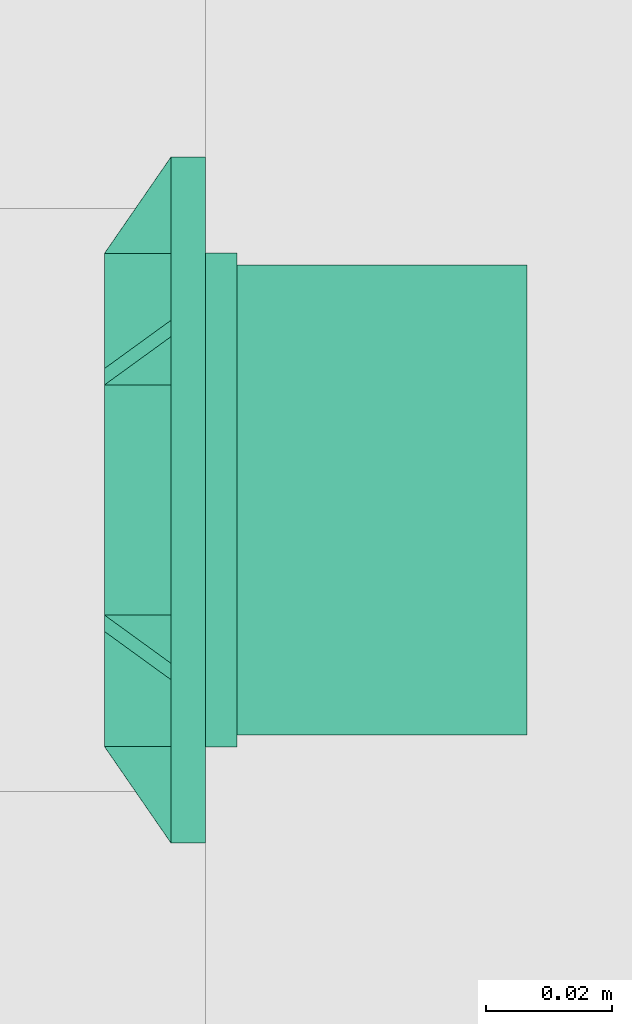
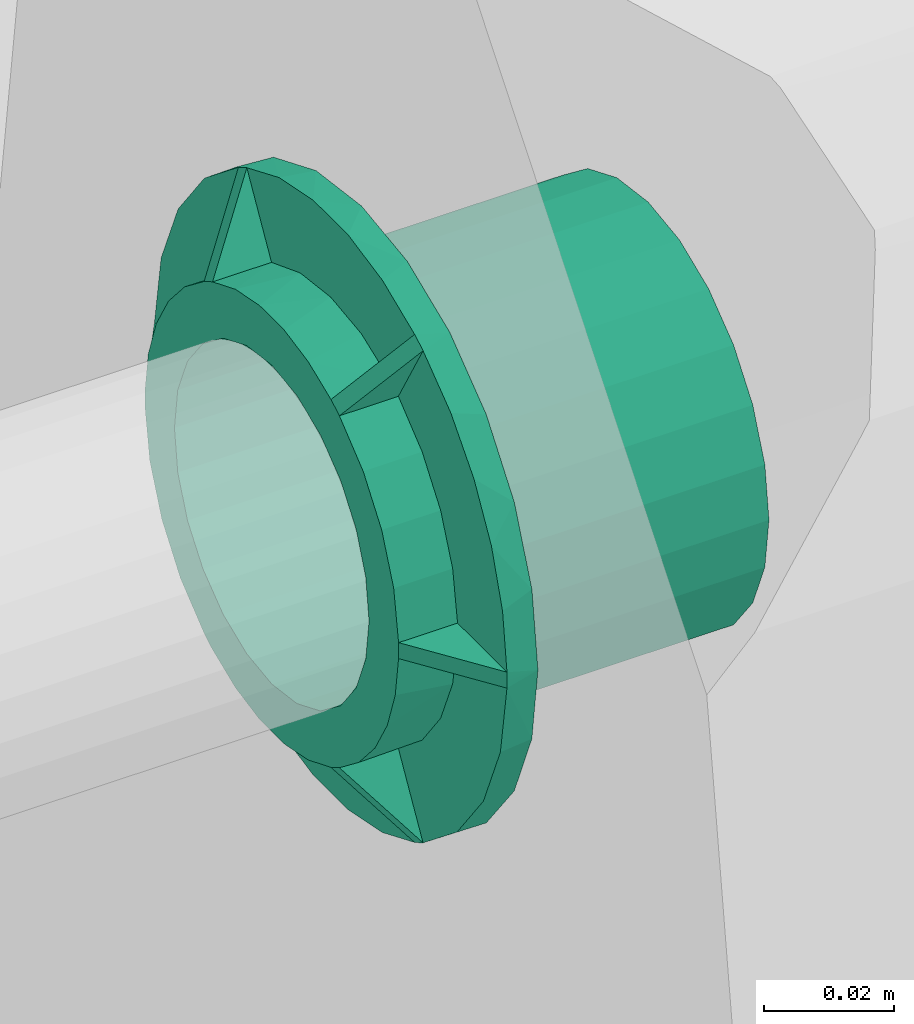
# One storey, part 65 of 166: 1 flow fitting.
"""IFC2X3 building model written with IfcOpenShell, lengths in metres."""

import ifcopenshell
import ifcopenshell.guid

model = None  # the IFC model being written
_history = None  # IfcOwnerHistory: only IFC2X3 demands one
_inside = {}  # id of a spatial element -> (the spatial element, [elements in it])
_under = {}  # id of a project, library or spatial element -> (it, [spatial elements below it])
_declared = {}  # id of a project -> (the project, [libraries it declares])
_typed = {}  # id of a type object -> (the type object, [elements of that type])
_made_of = {}  # id of a material, layer set ... -> (it, [elements and type objects made of it])


def new_model(schema):
    """Start an empty IFC model of exactly this schema.

    Asked for "IFC4X3", IfcOpenShell would pick the latest addendum, in which some entities
    have other attributes; the version numbers below select the first issue.
    IFC2X3 requires an IfcOwnerHistory on every rooted entity: one is made here for all.
    """
    global model, _history
    if schema == "IFC4X3":
        model = ifcopenshell.file(schema_version=(4, 3, 0, 0))
    else:
        model = ifcopenshell.file(schema=schema)
    _inside.clear()
    _under.clear()
    _declared.clear()
    _typed.clear()
    _made_of.clear()
    _history = None
    if model.schema == "IFC2X3":
        org = make("IfcOrganization", Name="unknown")
        user = make(
            "IfcPersonAndOrganization",
            ThePerson=make("IfcPerson", FamilyName="unknown"),
            TheOrganization=org,
        )
        app = make(
            "IfcApplication",
            ApplicationDeveloper=org,
            Version="unknown",
            ApplicationFullName="unknown",
            ApplicationIdentifier="unknown",
        )
        _history = make(
            "IfcOwnerHistory",
            OwningUser=user,
            OwningApplication=app,
            ChangeAction="ADDED",
            CreationDate=0,
        )
    return model


def make(cls, **values):
    """One entity of the class cls with the attributes given. An attribute that is None is left unset."""
    return model.create_entity(
        cls, **{name: value for name, value in values.items() if value is not None}
    )


def entity(cls, *values):
    """Any entity or typed value of the class cls, its attributes in the order of the schema. None: left unset."""
    e = model.create_entity(cls)
    for i, value in enumerate(values):
        if value is not None:
            e[i] = value
    return e


def rooted(cls, **values):
    """An entity with a GlobalId (a new one), such as an element, a storey or a relation."""
    return make(cls, GlobalId=ifcopenshell.guid.new(), OwnerHistory=_history, **values)


def si_unit(unit_type, name, prefix=None):
    """IfcSIUnit, for example si_unit("LENGTHUNIT", "METRE", prefix="MILLI")."""
    return make("IfcSIUnit", UnitType=unit_type, Prefix=prefix, Name=name)


def converted_unit(unit_type, name, factor, base, dimensions=None, offset=None):
    """IfcConversionBasedUnit, such as the inch: factor (a typed value) times the base unit."""
    return make(
        "IfcConversionBasedUnit"
        if offset is None
        else "IfcConversionBasedUnitWithOffset",
        ConversionOffset=offset,
        Dimensions=None
        if dimensions is None
        else entity("IfcDimensionalExponents", *dimensions),
        UnitType=unit_type,
        Name=name,
        ConversionFactor=make(
            "IfcMeasureWithUnit", ValueComponent=factor, UnitComponent=base
        ),
    )


def assignment(units):
    """IfcUnitAssignment: the units of a project."""
    return None if units is None else make("IfcUnitAssignment", Units=units)


def point(xyz):
    """IfcCartesianPoint."""
    return None if xyz is None else make("IfcCartesianPoint", Coordinates=xyz)


def direction(xyz):
    """IfcDirection."""
    return None if xyz is None else make("IfcDirection", DirectionRatios=xyz)


def frame(location, z_axis=None, x_axis=None):
    """IfcAxis2Placement3D, a coordinate frame: its origin and axes. An axis left out is left unset."""
    return make(
        "IfcAxis2Placement3D",
        Location=point(location),
        Axis=direction(z_axis),
        RefDirection=direction(x_axis),
    )


def origin():
    """The frame at (0, 0, 0) with its axes left unset."""
    return frame((0.0, 0.0, 0.0))


def place(relative_to, where):
    """IfcLocalPlacement: puts the frame where relative to a parent placement (None: the world)."""
    return make(
        "IfcLocalPlacement", PlacementRelTo=relative_to, RelativePlacement=where
    )


def context(
    kind, dimensions, precision=None, world=None, true_north=None, identifier=None
):
    """IfcGeometricRepresentationContext, for example the 3D "Model" context."""
    return make(
        "IfcGeometricRepresentationContext",
        ContextIdentifier=identifier,
        ContextType=kind,
        CoordinateSpaceDimension=dimensions,
        Precision=precision,
        WorldCoordinateSystem=world,
        TrueNorth=true_north,
    )


def subcontext(parent, identifier, kind, view, scale=None):
    """IfcGeometricRepresentationSubContext, for example "Body" below "Model"."""
    return make(
        "IfcGeometricRepresentationSubContext",
        ContextIdentifier=identifier,
        ContextType=kind,
        ParentContext=parent,
        TargetScale=scale,
        TargetView=view,
    )


def project(units=None, contexts=None):
    """IfcProject with its units and contexts."""
    return rooted(
        "IfcProject",
        Name="project",
        RepresentationContexts=contexts,
        UnitsInContext=assignment(units),
    )


def spatial(cls, under=None, at=None, **own):
    """A site, building, storey or space (cls), placed at a placement, below another one or the project."""
    s = rooted(cls, ObjectPlacement=at, **own)
    if under is not None:
        _under.setdefault(under.id(), (under, []))[1].append(s)
    return s


def faces_of(points, faces, orient=None, outer=None):
    """IfcFace entities. A face is a list of loops; a loop is a list of indices into points, from 0.

    orient and outer hold one flag for each loop. By default every Orientation is true, the
    first loop of a face is its IfcFaceOuterBound and the others are IfcFaceBound.
    """
    made = []
    for i, loops in enumerate(faces):
        bounds = []
        for j, loop in enumerate(loops):
            is_outer = j == 0 if outer is None else outer[i][j]
            bounds.append(
                make(
                    "IfcFaceOuterBound" if is_outer else "IfcFaceBound",
                    Bound=make("IfcPolyLoop", Polygon=[points[k] for k in loop]),
                    Orientation=True if orient is None else orient[i][j],
                )
            )
        made.append(make("IfcFace", Bounds=bounds))
    return made


def faceted_brep(points, faces, orient=None, outer=None, voids=None):
    """IfcFacetedBrep: a solid bounded by flat faces; with voids (closed shells), ...WithVoids."""
    shared = [point(p) for p in points]
    hull = make("IfcClosedShell", CfsFaces=faces_of(shared, faces, orient, outer))
    if voids is None:
        return make("IfcFacetedBrep", Outer=hull)
    return make(
        "IfcFacetedBrepWithVoids",
        Outer=hull,
        Voids=[
            make(cls, CfsFaces=faces_of(shared, fs, o, b)) for cls, fs, o, b in voids
        ],
    )


def shape(context_of_items, identifier, shape_type, items):
    """IfcShapeRepresentation: the items that make up one representation, for example the "Body"."""
    return make(
        "IfcShapeRepresentation",
        ContextOfItems=context_of_items,
        RepresentationIdentifier=identifier,
        RepresentationType=shape_type,
        Items=items,
    )


def source(mapping_origin, context_of_items, identifier, shape_type, items):
    """IfcRepresentationMap: a shape defined once, which mapped items show again and again."""
    return make(
        "IfcRepresentationMap",
        MappingOrigin=mapping_origin,
        MappedRepresentation=shape(context_of_items, identifier, shape_type, items),
    )


def transform(
    local_origin,
    x_axis=None,
    y_axis=None,
    z_axis=None,
    scale=None,
    scale2=None,
    scale3=None,
    uniform=True,
):
    """IfcCartesianTransformationOperator3D, or its non-uniform kind. x_axis, y_axis, z_axis: its Axis1, 2, 3."""
    if uniform:
        return make(
            "IfcCartesianTransformationOperator3D",
            Axis1=direction(x_axis),
            Axis2=direction(y_axis),
            LocalOrigin=point(local_origin),
            Scale=scale,
            Axis3=direction(z_axis),
        )
    return make(
        "IfcCartesianTransformationOperator3DnonUniform",
        Axis1=direction(x_axis),
        Axis2=direction(y_axis),
        LocalOrigin=point(local_origin),
        Scale=scale,
        Axis3=direction(z_axis),
        Scale2=scale2,
        Scale3=scale3,
    )


def mapped(mapping_source, mapping_target):
    """IfcMappedItem: shows the shape of a source again, moved by a transform."""
    return make(
        "IfcMappedItem", MappingSource=mapping_source, MappingTarget=mapping_target
    )


def material(Name=None, Category=None):
    """IfcMaterial."""
    return make("IfcMaterial", Name=Name, Category=Category)


def made_of(thing, what):
    """Note that an element or type object is made of a material, layer set ...; save() writes the relation."""
    if what is not None:
        _made_of.setdefault(what.id(), (what, []))[1].append(thing)
    return thing


def type_object(cls, material=None, **own):
    """A type object (cls), such as IfcWallType, which elements share."""
    return made_of(rooted(cls, **own), material)


def type_shapes(of_type, sources):
    """Give a type object the sources (RepresentationMaps) that its elements show as mapped items."""
    of_type.RepresentationMaps = sources


def element(
    cls,
    number,
    at=None,
    inside=None,
    cuts=None,
    type_object=None,
    material=None,
    context=None,
    identifier="Body",
    shape_type=None,
    held_by="IfcProductDefinitionShape",
    body=None,
    shapes=None,
    **own,
):
    """One element of the class cls, such as IfcWall. Its Tag is "e" and its number.

    at: its placement. inside: the storey or other place that contains it. cuts: it is an
    opening in that element (IfcRelVoidsElement). A single representation is given by context,
    identifier, shape_type and body (its items); several are given by shapes. held_by: the class
    of the entity that holds the representations. save() writes the other relations.
    """
    e = rooted(cls, Tag="e%d" % number, ObjectPlacement=at, **own)
    if body is not None:
        shapes = [shape(context, identifier, shape_type, body)]
    if shapes is not None:
        e.Representation = make(held_by, Representations=shapes)
    if inside is not None:
        _inside.setdefault(inside.id(), (inside, []))[1].append(e)
    if cuts is not None:
        rooted(
            "IfcRelVoidsElement", RelatingBuildingElement=cuts, RelatedOpeningElement=e
        )
    if type_object is not None:
        _typed.setdefault(type_object.id(), (type_object, []))[1].append(e)
    return made_of(e, material)


def aggregate(whole, parts):
    """IfcRelAggregates: a whole, such as a stair, and the parts it consists of."""
    return rooted("IfcRelAggregates", RelatingObject=whole, RelatedObjects=parts)


def save(model, path):
    """Write the relations noted so far, then the file.

    IfcRelAggregates (storeys below a building ...), IfcRelContainedInSpatialStructure (elements
    in a storey), IfcRelDefinesByType, IfcRelAssociatesMaterial and IfcRelDeclares: one each for
    every whole, place, type object, material and project.
    """
    for whole, parts in _under.values():
        aggregate(whole, parts)
    for where, things in _inside.values():
        rooted(
            "IfcRelContainedInSpatialStructure",
            RelatedElements=things,
            RelatingStructure=where,
        )
    for kind, things in _typed.values():
        rooted("IfcRelDefinesByType", RelatedObjects=things, RelatingType=kind)
    for what, things in _made_of.values():
        rooted("IfcRelAssociatesMaterial", RelatedObjects=things, RelatingMaterial=what)
    for by, libraries in _declared.values():
        rooted("IfcRelDeclares", RelatingContext=by, RelatedDefinitions=libraries)
    model.write(path)


model = new_model("IFC2X3")

# Units and contexts
model_context = context("Model", 3, precision=1e-05, world=origin(), true_north=direction((6.123233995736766e-17, 1.0)))
body_context = subcontext(model_context, "Body", "Model", "MODEL_VIEW")
ifc_project = project(units=[si_unit("LENGTHUNIT", "METRE"), converted_unit("PLANEANGLEUNIT", "DEGREE", entity("IfcPlaneAngleMeasure", 0.017453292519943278), si_unit("PLANEANGLEUNIT", "RADIAN"), dimensions=[0, 0, 0, 0, 0, 0, 0]), si_unit("AREAUNIT", "SQUARE_METRE")], contexts=[model_context])

# Site, building, storey
site_placement = place(None, origin())
site = spatial("IfcSite", under=ifc_project, at=site_placement, Name="Default", CompositionType="ELEMENT")
building_placement = place(site_placement, origin())
building = spatial("IfcBuilding", under=site, at=building_placement, Name="CASA DE ACOLHIDA PARA IDOSOS", CompositionType="ELEMENT")
storey_placement = place(building_placement, frame((0.0, 0.0, -1.7499999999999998)))
storey = spatial("IfcBuildingStorey", under=building, at=storey_placement, Name="IMPLANTAÇÃO DRENAGEM", CompositionType="ELEMENT", Elevation=-1.7499999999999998)

# Flow fitting
ifc_material = material(Name="Fortlev - PVC Marrom")
pipe_fitting_type = type_object("IfcPipeFittingType", Name="Adaptador Soldavel com Anel para CxDagua - Fortlev:Standard", PredefinedType="NOTDEFINED", material=ifc_material)
shared_shape = source(origin(), body_context, "Body", "Brep", [
    faceted_brep([(0.010500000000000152, -0.049522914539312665, 0.022392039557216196), (0.010500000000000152, -0.044138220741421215, 0.03171340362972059), (0.010500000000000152, -0.03702385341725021, 0.03978890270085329), (0.010500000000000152, -0.028463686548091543, 0.046300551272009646), (0.010500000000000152, -0.020847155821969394, 0.033108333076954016), (0.010500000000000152, -0.02819089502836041, 0.027130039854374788), (0.010500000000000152, -0.0338832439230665, 0.01956249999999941), (0.010500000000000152, -0.03759075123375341, 0.01084901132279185), (0.010500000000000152, -0.039096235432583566, 0.001500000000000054), (0.010500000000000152, -0.05432929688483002, 0.0015000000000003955), (0.010500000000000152, -0.05296506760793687, 0.01219114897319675), (0.010500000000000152, 0.03909623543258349, 0.0015000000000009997), (0.010500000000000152, 0.03759075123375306, 0.010849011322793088), (0.010500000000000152, 0.03388324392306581, 0.019562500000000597), (0.010500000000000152, 0.028190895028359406, 0.02713003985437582), (0.010500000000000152, 0.020847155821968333, 0.033108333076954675), (0.010500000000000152, 0.028463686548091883, 0.046300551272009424), (0.010500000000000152, 0.0389559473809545, 0.037899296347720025), (0.010500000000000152, 0.04706833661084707, 0.027175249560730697), (0.010500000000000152, 0.0522995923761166, 0.014787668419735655), (0.010500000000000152, 0.054329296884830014, 0.0015000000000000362), (0.010500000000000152, 0.01592792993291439, 0.05196367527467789), (0.010500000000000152, 0.025865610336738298, 0.04780055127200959), (0.010500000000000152, 0.01824907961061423, 0.034608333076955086), (0.010500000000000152, 0.009399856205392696, 0.037979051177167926), (0.010500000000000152, 0.0, 0.039125), (0.010500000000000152, -0.009399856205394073, 0.037979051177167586), (0.010500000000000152, -0.018249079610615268, 0.03460833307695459), (0.010500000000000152, -0.025865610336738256, 0.047800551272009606), (0.010500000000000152, -0.015940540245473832, 0.051959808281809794), (0.010500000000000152, -0.005390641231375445, 0.054082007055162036), (0.010500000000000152, 0.00537307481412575, 0.05408375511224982), (0.010500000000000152, 0.028190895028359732, -0.02713003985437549), (0.010500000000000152, 0.03388324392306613, -0.019562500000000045), (0.010500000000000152, 0.03759075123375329, -0.010849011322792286), (0.010500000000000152, 0.03909623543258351, -0.0014999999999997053), (0.010500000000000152, 0.054329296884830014, -0.0014999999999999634), (0.010500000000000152, 0.05296506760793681, -0.012191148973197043), (0.010500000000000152, 0.04952291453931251, -0.022392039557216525), (0.010500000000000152, 0.04413822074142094, -0.03171340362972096), (0.010500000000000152, 0.03702385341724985, -0.03978890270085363), (0.010500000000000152, 0.028463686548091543, -0.04630055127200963), (0.010500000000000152, 0.020847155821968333, -0.03310833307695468), (0.010500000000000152, -0.03895594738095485, -0.03789929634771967), (0.010500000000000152, -0.04706833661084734, -0.027175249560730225), (0.010500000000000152, -0.052299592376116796, -0.01478766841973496), (0.010500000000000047, -0.05432929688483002, -0.001499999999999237), (0.010500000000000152, -0.03909623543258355, -0.0014999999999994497), (0.010500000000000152, -0.03759075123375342, -0.01084901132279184), (0.010500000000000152, -0.03388324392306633, -0.0195624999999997), (0.010500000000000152, -0.028190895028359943, -0.027130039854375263), (0.010500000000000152, -0.020847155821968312, -0.0331083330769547), (0.010500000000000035, -0.028463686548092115, -0.04630055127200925), (0.010500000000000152, 0.005390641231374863, -0.05408200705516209), (0.010500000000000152, -0.005373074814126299, -0.05408375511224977), (0.010500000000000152, -0.015927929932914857, -0.05196367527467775), (0.010500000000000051, -0.025865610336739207, -0.04780055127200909), (0.0105, -0.01824907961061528, -0.03460833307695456), (0.010500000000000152, -0.009399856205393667, -0.03797905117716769), (0.010500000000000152, 0.0, -0.039125), (0.010500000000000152, 0.009399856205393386, -0.037979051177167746), (0.010500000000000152, 0.01824907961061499, -0.03460833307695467), (0.010500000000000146, 0.02586561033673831, -0.04780055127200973), (0.010500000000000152, 0.01594054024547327, -0.05195980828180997), (0.005249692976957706, -0.04671297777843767, -0.001499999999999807), (0.005250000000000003, -0.04673749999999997, 0.0), (0.0, -0.03911780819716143, -0.0007501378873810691), (0.0, -0.039096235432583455, -0.0014999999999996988), (0.010500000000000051, -0.054344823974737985, -0.0007500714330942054), (0.0, -0.03912499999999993, 0.0), (0.010500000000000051, -0.05435, 0.0), (0.0, 0.01122227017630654, -0.03748101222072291), (0.0, 0.018249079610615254, -0.03460833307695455), (0.0, 0.003788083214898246, -0.038941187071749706), (0.0, -0.003787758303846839, -0.0389412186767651), (0.0, -0.011221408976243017, -0.03748127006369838), (0.0, -0.018249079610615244, -0.03460833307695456), (0.0, 0.026847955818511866, 0.028459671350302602), (0.0, 0.020847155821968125, 0.033108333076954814), (0.0, 0.03183205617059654, 0.022748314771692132), (0.0, 0.03562128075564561, 0.01618301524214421), (0.0, 0.03807320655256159, 0.009010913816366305), (0.0, 0.039096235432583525, 0.0015000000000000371), (0.005249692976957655, -0.024655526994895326, -0.039704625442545), (0.0052496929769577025, -0.022057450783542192, -0.04120462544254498), (0.010500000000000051, -0.027175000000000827, -0.04706848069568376), (0.0, -0.019562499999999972, -0.033883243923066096), (0.0, -0.02084715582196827, -0.03310833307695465), (0.021000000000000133, 0.03779184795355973, -0.010126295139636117), (0.016000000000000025, 0.03779184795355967, -0.01012629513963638), (0.016000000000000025, 0.039124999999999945, 0.0), (0.021000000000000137, 0.03912499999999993, 0.0), (0.02100000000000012, 0.0338832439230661, -0.019562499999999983), (0.016000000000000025, 0.033883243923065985, -0.019562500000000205), (0.016000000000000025, 0.02766555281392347, -0.02766555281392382), (0.0210000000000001, 0.027665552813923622, -0.027665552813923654), (0.021000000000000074, 0.019562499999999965, -0.03388324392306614), (0.016000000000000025, 0.019562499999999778, -0.033883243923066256), (0.021000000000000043, 0.010126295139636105, -0.03779184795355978), (0.016000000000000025, 0.010126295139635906, -0.03779184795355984), (0.02100000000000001, 0.0, -0.039125), (0.016000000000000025, 0.0, -0.039125), (0.020999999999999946, -0.0195625, -0.0338832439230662), (0.016000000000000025, -0.019562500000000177, -0.03388324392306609), (0.01600000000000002, -0.010126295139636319, -0.037791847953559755), (0.020999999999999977, -0.010126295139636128, -0.03779184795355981), (0.02099999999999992, -0.027665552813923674, -0.027665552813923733), (0.016000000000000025, -0.027665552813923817, -0.027665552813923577), (0.016000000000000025, -0.033883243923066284, -0.019562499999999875), (0.0209999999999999, -0.03388324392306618, -0.019562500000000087), (0.020999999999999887, -0.03779184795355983, -0.010126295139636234), (0.016000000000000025, -0.03779184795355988, -0.010126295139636), (0.020999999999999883, -0.03912500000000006, 0.0), (0.016000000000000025, -0.03912500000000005, 0.0), (0.0, -0.02684795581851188, -0.02845967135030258), (0.0, -0.031832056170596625, -0.022748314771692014), (0.0, -0.0356212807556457, -0.01618301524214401), (0.0, -0.03807320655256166, -0.009010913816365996), (0.005249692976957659, 0.024655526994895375, 0.03970462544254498), (0.005249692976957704, 0.02205745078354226, 0.04120462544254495), (0.010500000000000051, 0.02717499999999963, 0.04706848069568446), (0.0, 0.019562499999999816, 0.033883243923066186), (0.0, 0.018249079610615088, 0.03460833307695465), (0.0, -0.011222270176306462, 0.037481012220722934), (0.0, -0.018249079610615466, 0.03460833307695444), (0.0, -0.003788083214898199, 0.038941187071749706), (0.0, 0.003787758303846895, 0.038941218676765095), (0.0, 0.011221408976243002, 0.037481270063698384), (0.0052496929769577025, 0.022057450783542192, -0.04120462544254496), (0.005249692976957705, 0.02465552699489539, -0.03970462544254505), (0.010500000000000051, 0.02717499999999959, -0.047068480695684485), (0.0, 0.01956249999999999, -0.03388324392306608), (0.0, 0.020847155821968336, -0.03310833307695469), (0.005249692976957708, 0.046712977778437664, 0.0014999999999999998), (0.005250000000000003, 0.04673749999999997, 0.0), (0.0, 0.03911780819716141, 0.0007501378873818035), (0.010500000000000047, 0.05434482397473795, 0.0007500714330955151), (0.0, 0.03912499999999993, 0.0), (0.010500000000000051, 0.05435, 0.0), (0.005249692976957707, -0.022057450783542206, 0.041204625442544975), (0.005249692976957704, -0.024655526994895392, 0.03970462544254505), (0.010500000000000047, -0.027175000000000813, 0.04706848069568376), (0.0, -0.01956250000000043, 0.03388324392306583), (0.0, -0.020847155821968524, 0.0331083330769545), (0.020999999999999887, -0.037791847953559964, 0.010126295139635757), (0.016000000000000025, -0.03779184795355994, 0.010126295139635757), (0.0209999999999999, -0.03388324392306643, 0.019562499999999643), (0.016000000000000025, -0.0338832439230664, 0.019562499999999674), (0.016000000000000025, -0.027665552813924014, 0.027665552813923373), (0.02099999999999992, -0.02766555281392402, 0.027665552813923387), (0.020999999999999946, -0.019562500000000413, 0.03388324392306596), (0.016000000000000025, -0.019562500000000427, 0.033883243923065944), (0.020999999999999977, -0.010126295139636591, 0.037791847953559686), (0.01600000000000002, -0.01012629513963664, 0.03779184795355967), (0.02100000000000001, 0.0, 0.039125), (0.016000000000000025, 0.0, 0.039125), (0.021000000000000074, 0.019562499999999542, 0.03388324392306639), (0.016000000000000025, 0.01956249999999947, 0.033883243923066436), (0.016000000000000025, 0.010126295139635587, 0.03779184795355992), (0.021000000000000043, 0.010126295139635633, 0.03779184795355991), (0.0210000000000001, 0.02766555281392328, 0.027665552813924), (0.016000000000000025, 0.027665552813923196, 0.02766555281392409), (0.016000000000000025, 0.033883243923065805, 0.019562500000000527), (0.02100000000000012, 0.03388324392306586, 0.01956250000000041), (0.021000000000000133, 0.0377918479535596, 0.010126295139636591), (0.016000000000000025, 0.037791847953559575, 0.010126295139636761), (0.016000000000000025, 0.02717500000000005, -0.047068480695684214), (0.016000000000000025, 0.03843125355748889, -0.03843125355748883), (0.016000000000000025, 0.014066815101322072, -0.052498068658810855), (0.016000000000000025, 0.047068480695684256, -0.027174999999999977), (0.016000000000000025, 0.05249806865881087, -0.014066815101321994), (0.016000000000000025, 0.05435, 0.0), (0.016000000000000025, 0.05249806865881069, 0.014066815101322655), (0.016000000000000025, 0.047068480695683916, 0.02717500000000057), (0.016000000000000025, 0.03843125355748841, 0.03843125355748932), (0.016000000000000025, 0.02717499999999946, 0.047068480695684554), (0.016000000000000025, 0.014066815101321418, 0.05249806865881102), (0.016000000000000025, 0.0, 0.05435), (0.016000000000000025, -0.014066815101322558, 0.052498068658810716), (0.016000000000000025, -0.027175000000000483, 0.04706848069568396), (0.016000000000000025, -0.03843125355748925, 0.03843125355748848), (0.016000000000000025, -0.04706848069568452, 0.02717499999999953), (0.016000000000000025, -0.05249806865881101, 0.014066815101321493), (0.016000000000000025, -0.05435, 0.0), (0.016000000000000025, -0.05249806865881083, -0.014066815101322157), (0.016000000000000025, -0.04706848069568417, -0.027175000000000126), (0.016000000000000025, -0.038431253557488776, -0.03843125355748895), (0.016000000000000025, -0.02717499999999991, -0.0470684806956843), (0.016000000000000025, -0.014066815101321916, -0.0524980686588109), (0.016000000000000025, 0.0, -0.05435), (0.010500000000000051, -0.054344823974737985, 0.0007500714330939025), (0.010500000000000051, 0.05434482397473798, -0.0007500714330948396), (0.0, -0.03909623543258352, 0.001500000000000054), (0.00524969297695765, -0.04671297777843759, 0.0015000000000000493), (0.0, 0.03909623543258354, -0.0014999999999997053), (0.0052496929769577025, 0.04671297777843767, -0.0014999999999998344), (0.06700000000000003, 0.018625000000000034, -0.03225944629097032), (0.06700000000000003, 0.026339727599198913, -0.026339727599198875), (0.06700000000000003, 0.014999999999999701, -0.02598076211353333), (0.06700000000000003, 0.007764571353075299, -0.028977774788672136), (0.06700000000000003, 0.009641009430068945, -0.03598073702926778), (0.06700000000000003, 0.021213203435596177, -0.021213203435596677), (0.06700000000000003, 0.032259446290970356, -0.01862499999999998), (0.06700000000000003, 0.02598076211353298, -0.015000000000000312), (0.06700000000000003, 0.028977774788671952, -0.007764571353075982), (0.06700000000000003, 0.035980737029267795, -0.00964100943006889), (0.06700000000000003, 0.03, 0.0), (0.06700000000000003, 0.03725, 0.0), (0.06700000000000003, 0.028977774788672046, 0.007764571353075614), (0.06700000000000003, 0.03598073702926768, 0.009641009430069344), (0.06700000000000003, 0.025980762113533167, 0.014999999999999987), (0.06700000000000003, 0.03225944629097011, 0.018625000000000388), (0.06700000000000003, 0.021213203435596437, 0.02121320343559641), (0.06700000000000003, 0.02633972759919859, 0.026339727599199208), (0.06700000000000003, 0.015000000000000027, 0.025980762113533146), (0.06700000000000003, 0.01862499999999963, 0.03225944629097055), (0.06700000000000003, 0.00776457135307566, 0.02897777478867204), (0.06700000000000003, 0.009641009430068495, 0.0359807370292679), (0.06700000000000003, 0.0, 0.03), (0.06700000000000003, 0.0, 0.03725), (0.06700000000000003, -0.007764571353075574, 0.028977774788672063), (0.06700000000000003, -0.00964100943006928, 0.03598073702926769), (0.06700000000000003, -0.01499999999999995, 0.02598076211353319), (0.06700000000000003, -0.01862500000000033, 0.03225944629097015), (0.06700000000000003, -0.021213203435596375, 0.021213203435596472), (0.06700000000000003, -0.02633972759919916, 0.026339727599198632), (0.06700000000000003, -0.025980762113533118, 0.015000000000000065), (0.06700000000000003, -0.032259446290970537, 0.018624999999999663), (0.06700000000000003, -0.03598073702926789, 0.009641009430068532), (0.06700000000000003, -0.028977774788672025, 0.007764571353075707), (0.06700000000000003, -0.03725, 0.0), (0.06700000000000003, -0.03, 0.0), (0.06700000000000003, -0.03598073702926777, -0.009641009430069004), (0.06700000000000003, -0.028977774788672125, -0.007764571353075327), (0.06700000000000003, -0.032259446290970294, -0.018625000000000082), (0.06700000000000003, -0.02598076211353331, -0.014999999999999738), (0.06700000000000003, -0.026339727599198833, -0.026339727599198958), (0.06700000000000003, -0.021213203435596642, -0.021213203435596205), (0.06700000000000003, -0.018624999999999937, -0.03225944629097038), (0.06700000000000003, -0.015000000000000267, -0.025980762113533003), (0.06700000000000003, -0.009641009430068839, -0.03598073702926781), (0.06700000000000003, -0.007764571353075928, -0.028977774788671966), (0.06700000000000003, 0.0, -0.03725), (0.06700000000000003, 0.0, -0.03), (0.020999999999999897, -0.03725, 0.0), (0.0209999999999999, -0.035980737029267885, 0.00964100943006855), (0.020999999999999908, -0.032259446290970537, 0.018624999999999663), (0.020999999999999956, -0.018625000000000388, 0.03225944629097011), (0.02099999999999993, -0.02633972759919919, 0.0263397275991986), (0.020999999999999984, -0.009641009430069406, 0.03598073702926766), (0.021000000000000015, 0.0, 0.03725), (0.021000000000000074, 0.018624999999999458, 0.032259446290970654), (0.021000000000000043, 0.009641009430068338, 0.03598073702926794), (0.0210000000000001, 0.026339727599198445, 0.026339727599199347), (0.02100000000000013, 0.035980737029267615, 0.00964100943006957), (0.02100000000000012, 0.032259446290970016, 0.01862500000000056), (0.021000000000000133, 0.03725, 0.0), (0.02100000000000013, 0.03598073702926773, -0.009641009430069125), (0.02100000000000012, 0.03225944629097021, -0.018625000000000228), (0.021000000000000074, 0.018624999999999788, -0.03225944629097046), (0.0210000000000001, 0.02633972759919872, -0.026339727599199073), (0.021000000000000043, 0.009641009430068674, -0.03598073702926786), (0.021000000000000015, 0.0, -0.03725), (0.020999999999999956, -0.018625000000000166, -0.032259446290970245), (0.020999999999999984, -0.009641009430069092, -0.03598073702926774), (0.02099999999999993, -0.02633972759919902, -0.02633972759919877), (0.0209999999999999, -0.035980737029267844, -0.009641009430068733), (0.020999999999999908, -0.032259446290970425, -0.018624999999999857), (0.01600000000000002, -0.028977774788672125, -0.007764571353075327), (0.0, -0.028977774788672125, -0.007764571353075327), (0.0, -0.03, 0.0), (0.010500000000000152, -0.030000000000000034, 0.0), (0.01600000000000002, -0.03, 0.0), (0.020999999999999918, -0.03, 0.0), (0.01600000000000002, -0.02598076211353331, -0.014999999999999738), (0.0, -0.025980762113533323, -0.014999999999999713), (0.01600000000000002, -0.007764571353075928, -0.028977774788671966), (0.0, -0.007764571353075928, -0.028977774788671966), (0.0, -0.015000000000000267, -0.025980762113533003), (0.01600000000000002, -0.015000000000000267, -0.025980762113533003), (0.0, -0.021213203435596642, -0.021213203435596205), (0.01600000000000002, -0.021213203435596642, -0.021213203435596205), (0.01600000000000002, 0.0, -0.03), (0.0, 0.0, -0.03), (0.01600000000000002, 0.007764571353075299, -0.028977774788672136), (0.01600000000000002, 0.014999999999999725, -0.02598076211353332), (0.0, 0.014999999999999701, -0.02598076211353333), (0.0, 0.007764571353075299, -0.028977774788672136), (0.01600000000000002, 0.021213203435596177, -0.021213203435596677), (0.0, 0.021213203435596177, -0.021213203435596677), (0.021000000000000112, 0.03, 0.0), (0.01600000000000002, 0.03, 0.0), (0.010500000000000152, 0.029999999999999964, 0.0), (0.0, 0.03, 0.0), (0.0, 0.028977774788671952, -0.007764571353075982), (0.01600000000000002, 0.028977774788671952, -0.007764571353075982), (0.01600000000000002, 0.02598076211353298, -0.015000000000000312), (0.0, 0.02598076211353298, -0.015000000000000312), (0.01600000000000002, 0.028977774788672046, 0.007764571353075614), (0.0, 0.028977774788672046, 0.007764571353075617), (0.01600000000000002, 0.025980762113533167, 0.014999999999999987), (0.0, 0.025980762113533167, 0.014999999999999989), (0.01600000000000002, 0.00776457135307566, 0.02897777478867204), (0.0, 0.00776457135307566, 0.02897777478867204), (0.0, 0.015000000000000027, 0.025980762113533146), (0.01600000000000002, 0.015000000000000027, 0.025980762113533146), (0.01600000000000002, 0.021213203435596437, 0.02121320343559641), (0.0, 0.021213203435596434, 0.021213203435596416), (0.01600000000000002, 0.0, 0.03), (0.0, 0.0, 0.03), (0.01600000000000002, -0.0077645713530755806, 0.02897777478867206), (0.01600000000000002, -0.01499999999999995, 0.02598076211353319), (0.0, -0.01499999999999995, 0.02598076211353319), (0.0, -0.007764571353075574, 0.028977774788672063), (0.01600000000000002, -0.021213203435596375, 0.021213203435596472), (0.0, -0.021213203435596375, 0.021213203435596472), (0.0, -0.028977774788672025, 0.007764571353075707), (0.01600000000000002, -0.028977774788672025, 0.007764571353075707), (0.01600000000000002, -0.025980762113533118, 0.015000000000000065), (0.0, -0.025980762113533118, 0.015000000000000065), (0.0, -0.03759436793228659, 0.010836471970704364), (0.0, -0.033887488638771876, 0.01955514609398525), (0.0, -0.02819358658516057, 0.02712724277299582), (0.0, 0.03759436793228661, -0.010836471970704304), (0.0, 0.0338874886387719, -0.01955514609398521), (0.0, 0.02819358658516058, -0.027127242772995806), (0.0, 0.03911780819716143, -0.0007501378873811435), (0.0, -0.03911780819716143, 0.0007501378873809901)], [[[0, 1, 2, 3, 4, 5, 6, 7, 8, 9, 10]], [[11, 12, 13, 14, 15, 16, 17, 18, 19, 20]], [[21, 22, 23, 24, 25, 26, 27, 28, 29, 30, 31]], [[32, 33, 34, 35, 36, 37, 38, 39, 40, 41, 42]], [[43, 44, 45, 46, 47, 48, 49, 50, 51, 52]], [[53, 54, 55, 56, 57, 58, 59, 60, 61, 62, 63]], [[64, 65, 66]], [[66, 67, 64]], [[68, 64, 46]], [[66, 65, 69]], [[64, 68, 65]], [[65, 68, 70]], [[61, 60, 71]], [[61, 71, 72]], [[71, 60, 73]], [[60, 59, 73]], [[74, 59, 58]], [[75, 58, 57]], [[58, 75, 74]], [[75, 57, 76]], [[59, 74, 73]], [[15, 14, 77]], [[15, 77, 78]], [[77, 14, 79]], [[14, 13, 79]], [[80, 13, 12]], [[81, 12, 11]], [[12, 81, 80]], [[81, 11, 82]], [[13, 80, 79]], [[83, 84, 85]], [[84, 56, 85]], [[86, 76, 84]], [[83, 87, 86]], [[83, 85, 52]], [[86, 84, 83]], [[88, 89, 90, 91]], [[92, 93, 89, 88]], [[94, 95, 96, 97]], [[92, 95, 94, 93]], [[97, 96, 98, 99]], [[100, 101, 99, 98]], [[102, 103, 104, 105]], [[106, 107, 103, 102]], [[108, 109, 110, 111]], [[106, 109, 108, 107]], [[111, 110, 112, 113]], [[104, 101, 100, 105]], [[51, 50, 114]], [[51, 114, 87]], [[114, 50, 115]], [[50, 49, 115]], [[116, 49, 48]], [[117, 48, 47]], [[48, 117, 116]], [[117, 47, 67]], [[49, 116, 115]], [[118, 119, 120]], [[119, 22, 120]], [[121, 122, 119]], [[118, 78, 121]], [[118, 120, 16]], [[121, 119, 118]], [[27, 26, 123]], [[27, 123, 124]], [[123, 26, 125]], [[26, 25, 125]], [[126, 25, 24]], [[127, 24, 23]], [[24, 127, 126]], [[127, 23, 122]], [[25, 126, 125]], [[128, 129, 130]], [[129, 41, 130]], [[131, 132, 129]], [[128, 72, 131]], [[128, 130, 62]], [[131, 129, 128]], [[133, 134, 135]], [[135, 82, 133]], [[136, 133, 20]], [[135, 134, 137]], [[133, 136, 134]], [[134, 136, 138]], [[139, 140, 141]], [[140, 3, 141]], [[142, 143, 140]], [[139, 124, 142]], [[139, 141, 28]], [[142, 140, 139]], [[144, 145, 113, 112]], [[146, 147, 145, 144]], [[148, 149, 150, 151]], [[146, 149, 148, 147]], [[151, 150, 152, 153]], [[154, 155, 153, 152]], [[156, 157, 158, 159]], [[160, 161, 157, 156]], [[162, 163, 164, 165]], [[160, 163, 162, 161]], [[165, 164, 91, 90]], [[158, 155, 154, 159]], [[166, 167, 97]], [[166, 97, 99]], [[99, 168, 166]], [[97, 167, 94]], [[169, 94, 167]], [[93, 94, 169]], [[89, 93, 169]], [[89, 169, 170]], [[89, 170, 90]], [[90, 170, 171]], [[165, 90, 171]], [[165, 171, 172]], [[162, 165, 172]], [[162, 172, 173]], [[161, 162, 173]], [[173, 174, 161]], [[174, 157, 161]], [[157, 174, 175]], [[157, 175, 158]], [[176, 158, 175]], [[158, 176, 155]], [[155, 176, 177]], [[177, 153, 155]], [[153, 177, 178]], [[153, 178, 151]], [[179, 151, 178]], [[179, 148, 151]], [[179, 180, 148]], [[147, 148, 180]], [[181, 147, 180]], [[182, 147, 181]], [[145, 147, 182]], [[145, 182, 183]], [[183, 113, 145]], [[184, 113, 183]], [[184, 111, 113]], [[111, 184, 185]], [[108, 111, 185]], [[108, 185, 186]], [[108, 186, 107]], [[186, 187, 107]], [[107, 187, 103]], [[103, 187, 188]], [[188, 104, 103]], [[189, 104, 188]], [[168, 101, 189]], [[104, 189, 101]], [[168, 99, 101]], [[182, 10, 183]], [[0, 182, 181]], [[181, 180, 1]], [[179, 178, 29]], [[179, 29, 28]], [[29, 178, 30]], [[178, 177, 30]], [[180, 179, 2]], [[141, 179, 28]], [[10, 9, 183]], [[70, 183, 190]], [[190, 183, 9]], [[3, 2, 179]], [[1, 0, 181]], [[180, 2, 1]], [[0, 10, 182]], [[3, 179, 141]], [[176, 31, 177]], [[21, 176, 175]], [[175, 174, 16]], [[19, 173, 172]], [[136, 171, 138]], [[172, 171, 20]], [[174, 173, 17]], [[171, 136, 20]], [[120, 22, 175]], [[22, 21, 175]], [[21, 31, 176]], [[19, 18, 173]], [[17, 16, 174]], [[173, 18, 17]], [[16, 120, 175]], [[172, 20, 19]], [[177, 31, 30]], [[170, 37, 171]], [[38, 170, 169]], [[169, 167, 39]], [[166, 168, 63]], [[166, 63, 62]], [[63, 168, 53]], [[168, 189, 53]], [[167, 166, 40]], [[130, 166, 62]], [[37, 36, 171]], [[191, 171, 36]], [[171, 191, 138]], [[41, 40, 166]], [[39, 38, 169]], [[167, 40, 39]], [[38, 37, 170]], [[166, 130, 41]], [[188, 54, 189]], [[55, 188, 187]], [[187, 186, 52]], [[45, 185, 184]], [[68, 183, 70]], [[184, 183, 46]], [[186, 185, 43]], [[183, 68, 46]], [[85, 56, 187]], [[56, 55, 187]], [[55, 54, 188]], [[45, 44, 185]], [[43, 52, 186]], [[185, 44, 43]], [[52, 85, 187]], [[184, 46, 45]], [[189, 54, 53]], [[23, 22, 119, 122]], [[52, 51, 87, 83]], [[16, 15, 78, 118]], [[57, 56, 84, 76]], [[4, 3, 140, 143]], [[62, 61, 72, 128]], [[28, 27, 124, 139]], [[42, 41, 129, 132]], [[11, 20, 133, 82]], [[9, 8, 192, 193]], [[36, 35, 194, 195]], [[47, 46, 64, 67]], [[196, 197, 198]], [[196, 198, 199]], [[199, 200, 196]], [[198, 197, 201]], [[202, 201, 197]], [[203, 201, 202]], [[204, 203, 202]], [[204, 202, 205]], [[204, 205, 206]], [[206, 205, 207]], [[208, 206, 207]], [[208, 207, 209]], [[210, 208, 209]], [[210, 209, 211]], [[212, 210, 211]], [[211, 213, 212]], [[213, 214, 212]], [[214, 213, 215]], [[214, 215, 216]], [[217, 216, 215]], [[216, 217, 218]], [[218, 217, 219]], [[219, 220, 218]], [[220, 219, 221]], [[220, 221, 222]], [[223, 222, 221]], [[223, 224, 222]], [[223, 225, 224]], [[226, 224, 225]], [[227, 226, 225]], [[228, 226, 227]], [[229, 226, 228]], [[229, 228, 230]], [[230, 231, 229]], [[232, 231, 230]], [[232, 233, 231]], [[233, 232, 234]], [[235, 233, 234]], [[235, 234, 236]], [[235, 236, 237]], [[236, 238, 237]], [[237, 238, 239]], [[239, 238, 240]], [[240, 241, 239]], [[242, 241, 240]], [[200, 243, 242]], [[242, 243, 241]], [[200, 199, 243]], [[244, 230, 228, 245]], [[245, 228, 227, 246]], [[247, 248, 225, 223]], [[249, 247, 223, 221]], [[227, 225, 248, 246]], [[221, 219, 250, 249]], [[251, 252, 217, 215]], [[213, 253, 251, 215]], [[254, 255, 211, 209]], [[213, 211, 255, 253]], [[256, 254, 209, 207]], [[217, 252, 250, 219]], [[205, 257, 256, 207]], [[202, 258, 257, 205]], [[197, 196, 259, 260]], [[202, 197, 260, 258]], [[261, 259, 196, 200]], [[261, 200, 242, 262]], [[263, 264, 240, 238]], [[236, 265, 263, 238]], [[266, 267, 234, 232]], [[236, 234, 267, 265]], [[244, 266, 232, 230]], [[240, 264, 262, 242]], [[268, 269, 270, 271, 272, 273, 231, 233]], [[268, 233, 235, 274, 275, 269]], [[239, 241, 276, 277, 278, 279]], [[279, 278, 280, 281, 237, 239]], [[281, 280, 275, 274, 235, 237]], [[282, 283, 277, 276, 241, 243]], [[284, 199, 198, 285, 286, 287]], [[285, 198, 201, 288, 289, 286]], [[290, 291, 292, 293, 294, 295, 204, 206]], [[201, 203, 296, 297, 289, 288]], [[296, 203, 204, 295, 294, 297]], [[243, 199, 284, 287, 283, 282]], [[291, 290, 206, 208, 298, 299, 293, 292]], [[298, 208, 210, 300, 301, 299]], [[216, 302, 303, 304, 305, 214]], [[212, 306, 307, 301, 300, 210]], [[216, 218, 308, 309, 303, 302]], [[212, 214, 305, 304, 307, 306]], [[310, 220, 222, 311, 312, 313]], [[311, 222, 224, 314, 315, 312]], [[273, 272, 271, 270, 316, 317, 229, 231]], [[224, 226, 318, 319, 315, 314]], [[318, 226, 229, 317, 316, 319]], [[218, 220, 310, 313, 309, 308]], [[96, 95, 259]], [[96, 259, 261]], [[261, 98, 96]], [[259, 95, 260]], [[92, 260, 95]], [[260, 92, 258]], [[258, 92, 257]], [[88, 257, 92]], [[88, 256, 257]], [[256, 88, 91]], [[254, 256, 91]], [[91, 164, 254]], [[254, 164, 255]], [[163, 255, 164]], [[255, 163, 253]], [[253, 163, 160]], [[251, 253, 160]], [[160, 156, 251]], [[251, 156, 252]], [[159, 252, 156]], [[252, 159, 250]], [[250, 159, 154]], [[250, 154, 249]], [[249, 154, 152]], [[249, 152, 247]], [[150, 247, 152]], [[248, 247, 150]], [[248, 150, 149]], [[149, 246, 248]], [[146, 246, 149]], [[246, 146, 144]], [[144, 245, 246]], [[112, 245, 144]], [[112, 244, 245]], [[110, 244, 112]], [[110, 266, 244]], [[266, 110, 109]], [[109, 267, 266]], [[267, 109, 106]], [[267, 106, 265]], [[106, 102, 265]], [[263, 265, 102]], [[263, 102, 105]], [[105, 264, 263]], [[100, 264, 105]], [[98, 262, 100]], [[100, 262, 264]], [[98, 261, 262]], [[8, 7, 320]], [[8, 320, 192]], [[320, 7, 321]], [[7, 6, 321]], [[6, 5, 322]], [[5, 143, 322]], [[143, 5, 4]], [[6, 322, 321]], [[35, 34, 323]], [[35, 323, 194]], [[323, 34, 324]], [[34, 33, 324]], [[33, 32, 325]], [[32, 132, 325]], [[132, 32, 42]], [[33, 325, 324]], [[134, 195, 326]], [[138, 191, 134]], [[195, 194, 326]], [[134, 326, 137]], [[195, 191, 36]], [[195, 134, 191]], [[65, 193, 327]], [[65, 327, 69]], [[193, 192, 327]], [[70, 190, 65]], [[193, 190, 9]], [[193, 65, 190]], [[72, 287, 286]], [[131, 72, 286]], [[287, 72, 71]], [[287, 71, 73]], [[73, 283, 287]], [[74, 283, 73]], [[277, 283, 74]], [[277, 74, 75]], [[76, 277, 75]], [[278, 277, 76]], [[86, 278, 76]], [[278, 86, 87]], [[280, 278, 87]], [[87, 114, 280]], [[114, 115, 280]], [[115, 275, 280]], [[116, 275, 115]], [[116, 269, 275]], [[116, 117, 269]], [[269, 117, 67]], [[67, 270, 269]], [[67, 66, 270]], [[66, 69, 270]], [[69, 327, 270]], [[192, 270, 327]], [[270, 192, 316]], [[316, 192, 320]], [[319, 316, 320]], [[321, 319, 320]], [[321, 322, 319]], [[315, 319, 322]], [[322, 143, 315]], [[312, 315, 143]], [[143, 142, 312]], [[124, 312, 142]], [[124, 313, 312]], [[124, 123, 313]], [[313, 123, 125]], [[125, 309, 313]], [[125, 126, 309]], [[309, 126, 303]], [[303, 126, 127]], [[122, 303, 127]], [[122, 304, 303]], [[122, 121, 304]], [[78, 304, 121]], [[307, 304, 78]], [[307, 78, 77]], [[79, 307, 77]], [[307, 79, 301]], [[80, 301, 79]], [[80, 299, 301]], [[80, 81, 299]], [[81, 82, 299]], [[299, 82, 293]], [[293, 82, 135]], [[135, 137, 293]], [[293, 137, 326]], [[194, 293, 326]], [[194, 294, 293]], [[294, 194, 323]], [[323, 297, 294]], [[323, 324, 297]], [[297, 324, 325]], [[289, 297, 325]], [[289, 325, 132]], [[286, 132, 131]], [[289, 132, 286]]]),
])
type_shapes(pipe_fitting_type, [shared_shape])
flow_fitting_placement = place(storey_placement, frame((-64.27991005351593, 1.7406218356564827, 2.615000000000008)))
element("IfcFlowFitting", 1, at=flow_fitting_placement, inside=storey, type_object=pipe_fitting_type, material=ifc_material, Name="Adaptador Soldavel com Anel para CxDagua - Fortlev:Standard", ObjectType="Adaptador Soldavel com Anel para CxDagua - Fortlev:Standard", context=body_context, shape_type="MappedRepresentation", body=[
    mapped(shared_shape, transform((0.0, 0.0, 0.0), scale=1.0)),
])

save(model, "model.ifc")
